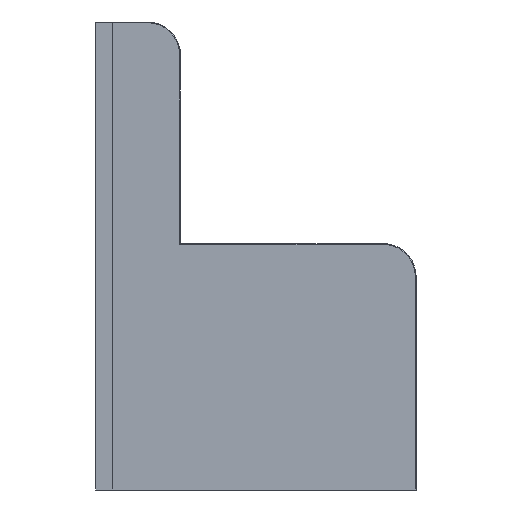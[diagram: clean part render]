
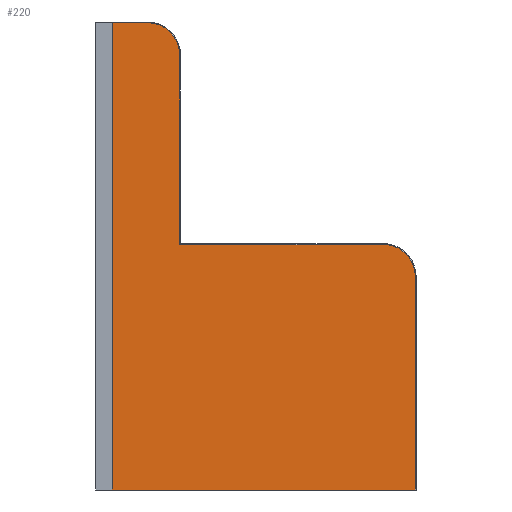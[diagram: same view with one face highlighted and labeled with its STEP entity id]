
A CAD part, left-side view. The second image highlights one B-rep face of the part: STEP entity #220.
In plain terms, the highlighted planar face has unit normal (-1, 0, 0).
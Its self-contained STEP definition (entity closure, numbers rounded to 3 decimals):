
#23=(
BOUNDED_CURVE()
B_SPLINE_CURVE(2,(#2816,#2817,#2818),.UNSPECIFIED.,.F.,.F.)
B_SPLINE_CURVE_WITH_KNOTS((3,3),(0.,61.261),
 .UNSPECIFIED.)
CURVE()
GEOMETRIC_REPRESENTATION_ITEM()
RATIONAL_B_SPLINE_CURVE((1.,0.707,1.))
REPRESENTATION_ITEM('')
);
#24=(
BOUNDED_CURVE()
B_SPLINE_CURVE(2,(#2819,#2820,#2821),.UNSPECIFIED.,.F.,.F.)
B_SPLINE_CURVE_WITH_KNOTS((3,3),(0.,61.261),.UNSPECIFIED.)
CURVE()
GEOMETRIC_REPRESENTATION_ITEM()
RATIONAL_B_SPLINE_CURVE((1.,0.707,1.))
REPRESENTATION_ITEM('')
);
#220=ADVANCED_FACE('',(#345),#1879,.T.);
#345=FACE_OUTER_BOUND('',#470,.T.);
#470=EDGE_LOOP('',(#830,#831,#832,#833,#834,#835,#836,#837));
#830=ORIENTED_EDGE('',*,*,#1241,.T.);
#831=ORIENTED_EDGE('',*,*,#1262,.T.);
#832=ORIENTED_EDGE('',*,*,#1242,.T.);
#833=ORIENTED_EDGE('',*,*,#1244,.T.);
#834=ORIENTED_EDGE('',*,*,#1261,.T.);
#835=ORIENTED_EDGE('',*,*,#1243,.F.);
#836=ORIENTED_EDGE('',*,*,#1211,.F.);
#837=ORIENTED_EDGE('',*,*,#1240,.F.);
#1211=EDGE_CURVE('',#1719,#1722,#1494,.T.);
#1240=EDGE_CURVE('',#1738,#1719,#1519,.T.);
#1241=EDGE_CURVE('',#1738,#1740,#1520,.T.);
#1242=EDGE_CURVE('',#1741,#1742,#1521,.T.);
#1243=EDGE_CURVE('',#1722,#1743,#1522,.T.);
#1244=EDGE_CURVE('',#1742,#1744,#1523,.T.);
#1261=EDGE_CURVE('',#1744,#1743,#23,.T.);
#1262=EDGE_CURVE('',#1740,#1741,#24,.T.);
#1494=B_SPLINE_CURVE_WITH_KNOTS('',1,(#2656,#2657),.UNSPECIFIED.,.F.,.F.,
(2,2),(0.,569.),.UNSPECIFIED.);
#1519=B_SPLINE_CURVE_WITH_KNOTS('',1,(#2745,#2746,#2747),.UNSPECIFIED.,
 .F.,.F.,(2,1,2),(1.,287.,370.),.UNSPECIFIED.);
#1520=B_SPLINE_CURVE_WITH_KNOTS('',1,(#2748,#2749),.UNSPECIFIED.,.F.,.F.,
(2,2),(0.,260.),.UNSPECIFIED.);
#1521=B_SPLINE_CURVE_WITH_KNOTS('',1,(#2750,#2751),.UNSPECIFIED.,.F.,.F.,
(2,2),(0.,248.),.UNSPECIFIED.);
#1522=B_SPLINE_CURVE_WITH_KNOTS('',1,(#2752,#2753),.UNSPECIFIED.,.F.,.F.,
(2,2),(0.,43.),.UNSPECIFIED.);
#1523=B_SPLINE_CURVE_WITH_KNOTS('',1,(#2754,#2755),.UNSPECIFIED.,.F.,.F.,
(2,2),(-1.,230.),.UNSPECIFIED.);
#1719=VERTEX_POINT('',#2612);
#1722=VERTEX_POINT('',#2615);
#1738=VERTEX_POINT('',#2631);
#1740=VERTEX_POINT('',#2633);
#1741=VERTEX_POINT('',#2634);
#1742=VERTEX_POINT('',#2635);
#1743=VERTEX_POINT('',#2636);
#1744=VERTEX_POINT('',#2637);
#1879=PLANE('',#2012);
#2012=AXIS2_PLACEMENT_3D('',#2575,#2129,$);
#2129=DIRECTION('',(-1.,0.,0.));
#2575=CARTESIAN_POINT('',(-415.,0.,0.));
#2612=CARTESIAN_POINT('',(-415.,370.,0.));
#2615=CARTESIAN_POINT('',(-415.,370.,569.));
#2631=CARTESIAN_POINT('',(-415.,1.,0.));
#2633=CARTESIAN_POINT('',(-415.,1.,260.));
#2634=CARTESIAN_POINT('',(-415.,40.,299.));
#2635=CARTESIAN_POINT('',(-415.,288.,299.));
#2636=CARTESIAN_POINT('',(-415.,327.,569.));
#2637=CARTESIAN_POINT('',(-415.,288.,530.));
#2656=CARTESIAN_POINT('',(-415.,370.,0.));
#2657=CARTESIAN_POINT('',(-415.,370.,569.));
#2745=CARTESIAN_POINT('',(-415.,1.,0.));
#2746=CARTESIAN_POINT('',(-415.,287.,0.));
#2747=CARTESIAN_POINT('',(-415.,370.,0.));
#2748=CARTESIAN_POINT('',(-415.,1.,0.));
#2749=CARTESIAN_POINT('',(-415.,1.,260.));
#2750=CARTESIAN_POINT('',(-415.,40.,299.));
#2751=CARTESIAN_POINT('',(-415.,288.,299.));
#2752=CARTESIAN_POINT('',(-415.,370.,569.));
#2753=CARTESIAN_POINT('',(-415.,327.,569.));
#2754=CARTESIAN_POINT('',(-415.,288.,299.));
#2755=CARTESIAN_POINT('',(-415.,288.,530.));
#2816=CARTESIAN_POINT('',(-415.,288.,530.));
#2817=CARTESIAN_POINT('',(-415.,288.,569.));
#2818=CARTESIAN_POINT('',(-415.,327.,569.));
#2819=CARTESIAN_POINT('',(-415.,1.,260.));
#2820=CARTESIAN_POINT('',(-415.,1.,299.));
#2821=CARTESIAN_POINT('',(-415.,40.,299.));
